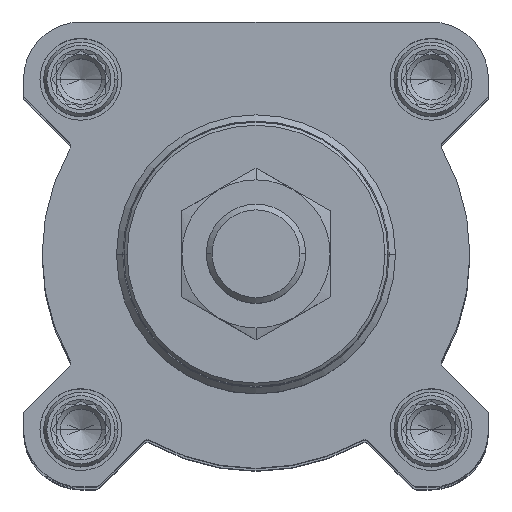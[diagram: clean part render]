
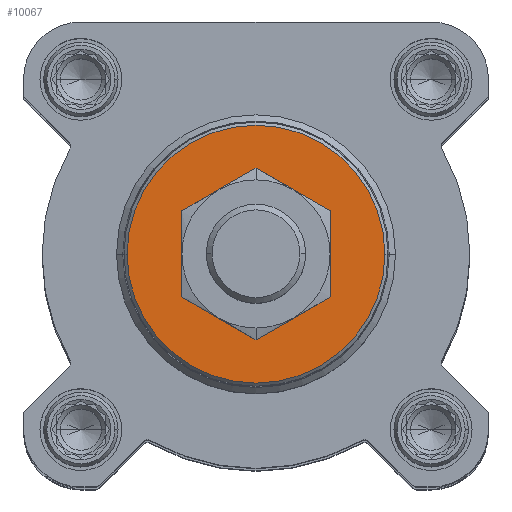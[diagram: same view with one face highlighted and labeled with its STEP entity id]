
A CAD part, top view. The second image highlights one B-rep face of the part: STEP entity #10067.
In plain terms, the highlighted planar face has unit normal (0, 0, 1).
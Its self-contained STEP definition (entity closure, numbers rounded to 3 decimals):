
#690 = EDGE_CURVE ( 'NONE', #9036, #18910, #13273, .T. ) ;
#1505 = CARTESIAN_POINT ( 'NONE',  ( 0., 0., 27. ) ) ;
#2098 = CARTESIAN_POINT ( 'NONE',  ( 0., 0., 27. ) ) ;
#3112 = CIRCLE ( 'NONE', #9769, 10. ) ;
#3591 = AXIS2_PLACEMENT_3D ( 'NONE', #20825, #10919, #5750 ) ;
#3969 = FACE_BOUND ( 'NONE', #10008, .T. ) ;
#4306 = CIRCLE ( 'NONE', #3591, 10. ) ;
#4326 = AXIS2_PLACEMENT_3D ( 'NONE', #2098, #19028, #10555 ) ;
#5404 = FACE_OUTER_BOUND ( 'NONE', #21479, .T. ) ;
#5750 = DIRECTION ( 'NONE',  ( -1., 0., 0. ) ) ;
#6334 = DIRECTION ( 'NONE',  ( -1., 0., 0. ) ) ;
#6510 = DIRECTION ( 'NONE',  ( 0., 0., -1. ) ) ;
#9019 = CIRCLE ( 'NONE', #12539, 20.799 ) ;
#9036 = VERTEX_POINT ( 'NONE', #10334 ) ;
#9403 = AXIS2_PLACEMENT_3D ( 'NONE', #13155, #14477, #6334 ) ;
#9674 = EDGE_CURVE ( 'NONE', #15044, #17785, #4306, .T. ) ;
#9769 = AXIS2_PLACEMENT_3D ( 'NONE', #1505, #13474, #11397 ) ;
#10008 = EDGE_LOOP ( 'NONE', ( #15752, #20623 ) ) ;
#10067 = ADVANCED_FACE ( 'NONE', ( #5404, #3969 ), #10667, .F. ) ;
#10137 = DIRECTION ( 'NONE',  ( -1., 0., 0. ) ) ;
#10334 = CARTESIAN_POINT ( 'NONE',  ( 20.799, 0., 27. ) ) ;
#10555 = DIRECTION ( 'NONE',  ( 0., -1., 0. ) ) ;
#10667 = PLANE ( 'NONE',  #4326 ) ;
#10919 = DIRECTION ( 'NONE',  ( 0., 0., -1. ) ) ;
#11397 = DIRECTION ( 'NONE',  ( -1., 0., 0. ) ) ;
#12539 = AXIS2_PLACEMENT_3D ( 'NONE', #18604, #6510, #10137 ) ;
#13155 = CARTESIAN_POINT ( 'NONE',  ( 0., 0., 27. ) ) ;
#13273 = CIRCLE ( 'NONE', #9403, 20.799 ) ;
#13474 = DIRECTION ( 'NONE',  ( 0., 0., -1. ) ) ;
#14444 = ORIENTED_EDGE ( 'NONE', *, *, #18434, .F. ) ;
#14477 = DIRECTION ( 'NONE',  ( 0., 0., -1. ) ) ;
#15044 = VERTEX_POINT ( 'NONE', #19294 ) ;
#15752 = ORIENTED_EDGE ( 'NONE', *, *, #9674, .T. ) ;
#17135 = CARTESIAN_POINT ( 'NONE',  ( -20.799, 0., 27. ) ) ;
#17741 = ORIENTED_EDGE ( 'NONE', *, *, #690, .F. ) ;
#17785 = VERTEX_POINT ( 'NONE', #19303 ) ;
#18434 = EDGE_CURVE ( 'NONE', #18910, #9036, #9019, .T. ) ;
#18604 = CARTESIAN_POINT ( 'NONE',  ( 0., 0., 27. ) ) ;
#18910 = VERTEX_POINT ( 'NONE', #17135 ) ;
#19028 = DIRECTION ( 'NONE',  ( 0., 0., -1. ) ) ;
#19294 = CARTESIAN_POINT ( 'NONE',  ( -10., 0., 27. ) ) ;
#19303 = CARTESIAN_POINT ( 'NONE',  ( 10., 0., 27. ) ) ;
#20623 = ORIENTED_EDGE ( 'NONE', *, *, #20719, .T. ) ;
#20719 = EDGE_CURVE ( 'NONE', #17785, #15044, #3112, .T. ) ;
#20825 = CARTESIAN_POINT ( 'NONE',  ( 0., 0., 27. ) ) ;
#21479 = EDGE_LOOP ( 'NONE', ( #14444, #17741 ) ) ;
